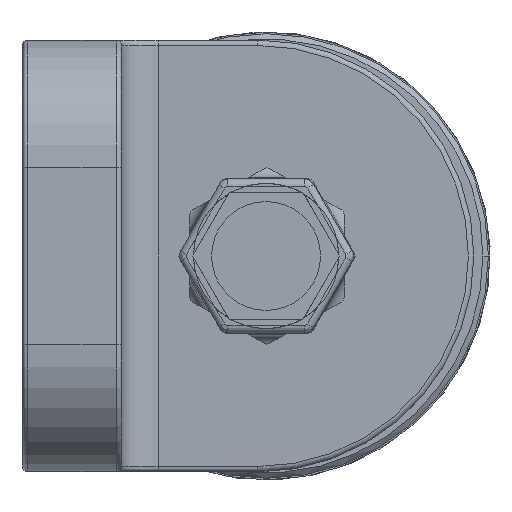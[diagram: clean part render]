
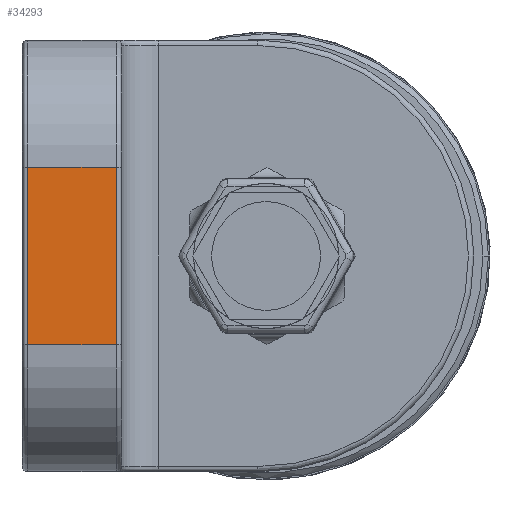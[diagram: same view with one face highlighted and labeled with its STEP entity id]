
A CAD part, front view. The second image highlights one B-rep face of the part: STEP entity #34293.
In plain terms, the highlighted planar face has unit normal (0, -1, 0).
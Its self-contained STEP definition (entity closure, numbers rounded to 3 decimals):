
#3431=DIRECTION('',(0.,0.,-1.));
#3432=VECTOR('',#3431,9.8);
#3433=CARTESIAN_POINT('',(-7.25,-12.5,4.9));
#3434=LINE('',#3433,#3432);
#3438=DIRECTION('',(-1.,0.,0.));
#3439=VECTOR('',#3438,4.9);
#3440=CARTESIAN_POINT('',(-7.25,-12.5,-4.9));
#3441=LINE('',#3440,#3439);
#3445=DIRECTION('',(0.,0.,1.));
#3446=VECTOR('',#3445,9.8);
#3447=CARTESIAN_POINT('',(-12.15,-12.5,-4.9));
#3448=LINE('',#3447,#3446);
#3452=DIRECTION('',(1.,0.,0.));
#3453=VECTOR('',#3452,4.9);
#3454=CARTESIAN_POINT('',(-12.15,-12.5,4.9));
#3455=LINE('',#3454,#3453);
#28868=CARTESIAN_POINT('',(-7.25,-12.5,4.9));
#28869=VERTEX_POINT('',#28868);
#28872=CARTESIAN_POINT('',(-7.25,-12.5,-4.9));
#28873=VERTEX_POINT('',#28872);
#28894=CARTESIAN_POINT('',(-12.15,-12.5,4.9));
#28896=VERTEX_POINT('',#28894);
#28900=CARTESIAN_POINT('',(-12.15,-12.5,-4.9));
#28901=VERTEX_POINT('',#28900);
#34281=CARTESIAN_POINT('',(-12.45,-12.5,-11.9));
#34282=DIRECTION('',(0.,-1.,0.));
#34283=DIRECTION('',(1.,0.,0.));
#34284=AXIS2_PLACEMENT_3D('',#34281,#34282,#34283);
#34285=PLANE('',#34284);
#34286=ORIENTED_EDGE('',*,*,#33791,.T.);
#34288=ORIENTED_EDGE('',*,*,#34287,.T.);
#34289=ORIENTED_EDGE('',*,*,#34129,.T.);
#34290=ORIENTED_EDGE('',*,*,#34267,.T.);
#34291=EDGE_LOOP('',(#34286,#34288,#34289,#34290));
#34292=FACE_OUTER_BOUND('',#34291,.F.);
#33791=EDGE_CURVE('',#28869,#28873,#3434,.T.);
#34129=EDGE_CURVE('',#28901,#28896,#3448,.T.);
#34267=EDGE_CURVE('',#28896,#28869,#3455,.T.);
#34287=EDGE_CURVE('',#28873,#28901,#3441,.T.);
#34293=ADVANCED_FACE('',(#34292),#34285,.T.);
